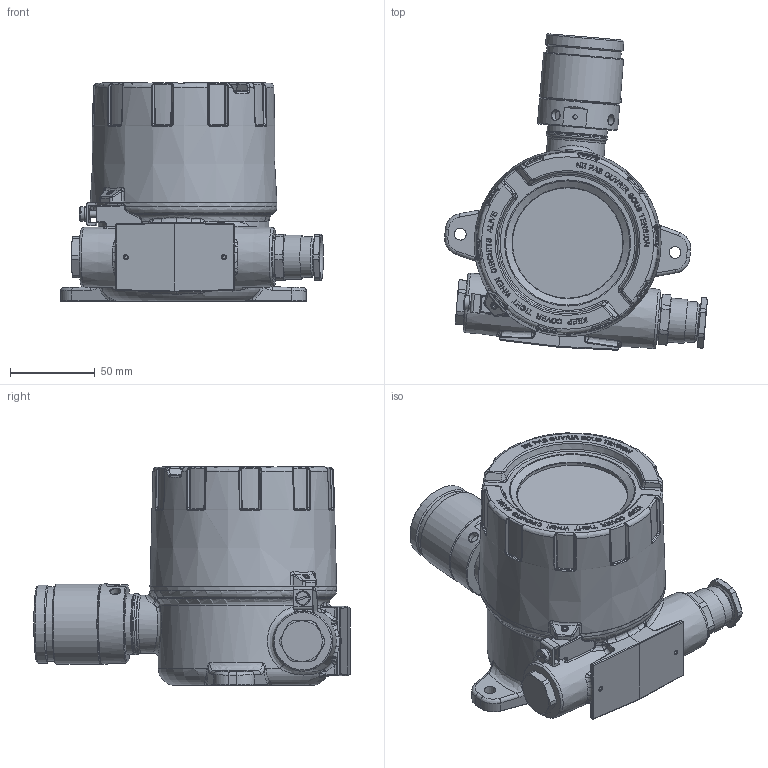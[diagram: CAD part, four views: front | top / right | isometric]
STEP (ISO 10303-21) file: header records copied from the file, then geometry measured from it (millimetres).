
FILE_DESCRIPTION(/* description */ (''),/* implementation_level */ '2;1');
FILE_NAME(/* name */ 'DGTeex.step',/* time_stamp */ '2026-06-29T12:57:27+03:00',/* author */ (''),/* organization */ (''),/* preprocessor_version */ 'ST-DEVELOPER v20.1',/* originating_system */ 'Autodesk Translation Framework v15.8.0.0',/* authorisation */ '');
FILE_SCHEMA (('AUTOMOTIVE_DESIGN { 1 0 10303 214 3 1 1 }'));
Products named in the file (22): 2026-06-23-10-09-19-147; 2026-06-23-07-14-39-462; 2026-06-23-07-14-39-463; 2026-06-23-07-14-39-464; 2026-06-23-07-14-39-465; 2026-06-23-07-14-39-466; 2026-06-23-07-14-39-467; 2026-06-23-07-14-39-468; 2026-06-23-07-14-39-469; 2026-06-23-07-14-39-470; 2026-06-23-07-14-39-471; 2026-06-23-07-14-39-472; 2026-06-23-07-14-39-473; 2026-06-23-07-14-39-474; 2026-06-23-07-14-39-475; 20A2F1RA; 757DM2; 2026-06-23-16-10-37-493; 1; 2; 3; 4
Assembly tree (21 placements, depth 4):
  2026-06-23-10-09-19-147
    2026-06-23-07-14-39-462
      2026-06-23-07-14-39-463
      2026-06-23-07-14-39-464
      2026-06-23-07-14-39-465
      2026-06-23-07-14-39-466
      2026-06-23-07-14-39-467
      2026-06-23-07-14-39-468
      2026-06-23-07-14-39-469
        2026-06-23-07-14-39-470
        2026-06-23-07-14-39-471
        2026-06-23-07-14-39-472
      2026-06-23-07-14-39-473
      2026-06-23-07-14-39-474
      2026-06-23-07-14-39-475
    20A2F1RA
    757DM2
    2026-06-23-16-10-37-493
      1
      2
      3
      4
Bounding box: 154.82 x 186.45 x 128.8 mm (x, y, z)
Volume: 578436 mm3; surface area: 203739.8 mm2
Topology: 19 solids, 19 shells, 1971 faces, 4569 edges, 2730 vertices
Faces by surface type: plane 672, cylinder 593, bspline 481, cone 108, torus 99, sphere 18
Full cylindrical faces by diameter (mm): 0.75 x12, 2 x3, 2.459 x1, 2.5 x4, 2.6 x1, 3 x1, 3.242 x8, 3.5 x2, 3.9 x1, 4 x2, 4.1 x1, 4.134 x1, 4.5 x1, 4.9 x1, 5 x1, 5.1 x1, 6 x4, 7 x1, 7.28 x1, 8.28 x1, 8.4 x1, 14.1 x1, 15 x1, 17.971 x2, 18 x4, 18.376 x3, 19 x1, 19.9 x1, 20 x5, 20.5 x1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
Entity records: 84134 total; most frequent: CARTESIAN_POINT 41909, ORIENTED_EDGE 9044, DIRECTION 8028, EDGE_CURVE 4522, AXIS2_PLACEMENT_3D 2997, VERTEX_POINT 2728, EDGE_LOOP 2144, LINE 2034
